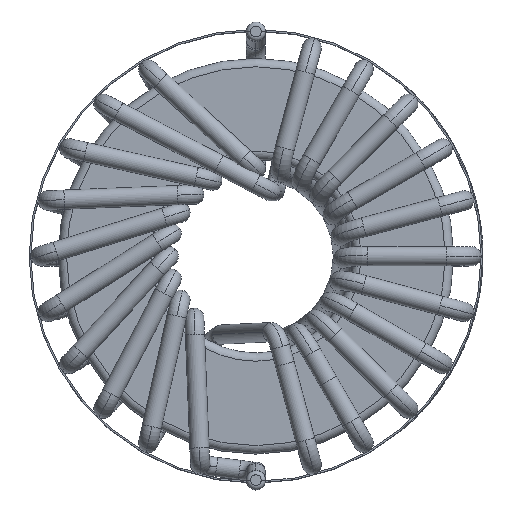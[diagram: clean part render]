
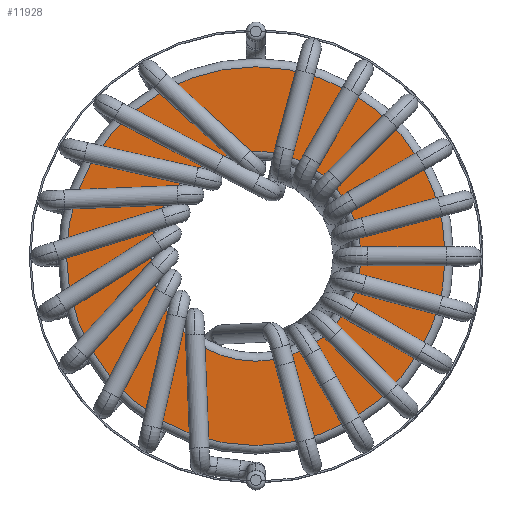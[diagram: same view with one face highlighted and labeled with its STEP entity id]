
A CAD part, top view. The second image highlights one B-rep face of the part: STEP entity #11928.
In plain terms, the highlighted planar face has unit normal (0, 0, 1).
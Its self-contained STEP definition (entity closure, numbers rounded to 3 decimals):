
#935 = EDGE_LOOP ( 'NONE', ( #23768, #34950 ) ) ;
#1108 = AXIS2_PLACEMENT_3D ( 'NONE', #33186, #2535, #22096 ) ;
#1188 = VERTEX_POINT ( 'NONE', #16156 ) ;
#1302 = DIRECTION ( 'NONE',  ( 0., 0., 1. ) ) ;
#1459 = CIRCLE ( 'NONE', #28337, 22.8 ) ;
#1494 = EDGE_LOOP ( 'NONE', ( #18919, #2948 ) ) ;
#1549 = CARTESIAN_POINT ( 'NONE',  ( 22.8, 0., 9.45 ) ) ;
#2535 = DIRECTION ( 'NONE',  ( 0., 0., 1. ) ) ;
#2948 = ORIENTED_EDGE ( 'NONE', *, *, #21420, .T. ) ;
#3639 = DIRECTION ( 'NONE',  ( 0., 0., -1. ) ) ;
#3956 = CIRCLE ( 'NONE', #25679, 22.8 ) ;
#8193 = EDGE_CURVE ( 'NONE', #19621, #27626, #3956, .T. ) ;
#9251 = DIRECTION ( 'NONE',  ( 1., 0., 0. ) ) ;
#10817 = EDGE_CURVE ( 'NONE', #18557, #1188, #19028, .T. ) ;
#11928 = ADVANCED_FACE ( 'NONE', ( #12811, #31945 ), #30413, .T. ) ;
#12473 = CARTESIAN_POINT ( 'NONE',  ( 0., 0., 9.45 ) ) ;
#12811 = FACE_BOUND ( 'NONE', #1494, .T. ) ;
#13916 = CARTESIAN_POINT ( 'NONE',  ( 0., 0., 9.45 ) ) ;
#14787 = AXIS2_PLACEMENT_3D ( 'NONE', #13916, #35503, #16569 ) ;
#15793 = CARTESIAN_POINT ( 'NONE',  ( -22.8, 0., 9.45 ) ) ;
#16156 = CARTESIAN_POINT ( 'NONE',  ( -12.65, 0., 9.45 ) ) ;
#16569 = DIRECTION ( 'NONE',  ( 1., 0., 0. ) ) ;
#17596 = AXIS2_PLACEMENT_3D ( 'NONE', #31711, #3639, #9251 ) ;
#18155 = DIRECTION ( 'NONE',  ( 0., 0., 1. ) ) ;
#18557 = VERTEX_POINT ( 'NONE', #21175 ) ;
#18919 = ORIENTED_EDGE ( 'NONE', *, *, #10817, .T. ) ;
#19028 = CIRCLE ( 'NONE', #14787, 12.65 ) ;
#19621 = VERTEX_POINT ( 'NONE', #15793 ) ;
#20639 = CIRCLE ( 'NONE', #17596, 12.65 ) ;
#21175 = CARTESIAN_POINT ( 'NONE',  ( 12.65, 0., 9.45 ) ) ;
#21420 = EDGE_CURVE ( 'NONE', #1188, #18557, #20639, .T. ) ;
#21615 = EDGE_CURVE ( 'NONE', #27626, #19621, #1459, .T. ) ;
#22096 = DIRECTION ( 'NONE',  ( 1., 0., 0. ) ) ;
#23768 = ORIENTED_EDGE ( 'NONE', *, *, #21615, .T. ) ;
#25679 = AXIS2_PLACEMENT_3D ( 'NONE', #34859, #18155, #26056 ) ;
#26056 = DIRECTION ( 'NONE',  ( 1., 0., 0. ) ) ;
#26575 = DIRECTION ( 'NONE',  ( 1., 0., 0. ) ) ;
#27626 = VERTEX_POINT ( 'NONE', #1549 ) ;
#28337 = AXIS2_PLACEMENT_3D ( 'NONE', #12473, #1302, #26575 ) ;
#30413 = PLANE ( 'NONE',  #1108 ) ;
#31711 = CARTESIAN_POINT ( 'NONE',  ( 0., 0., 9.45 ) ) ;
#31945 = FACE_OUTER_BOUND ( 'NONE', #935, .T. ) ;
#33186 = CARTESIAN_POINT ( 'NONE',  ( 0., 0., 9.45 ) ) ;
#34859 = CARTESIAN_POINT ( 'NONE',  ( 0., 0., 9.45 ) ) ;
#34950 = ORIENTED_EDGE ( 'NONE', *, *, #8193, .T. ) ;
#35503 = DIRECTION ( 'NONE',  ( 0., 0., -1. ) ) ;
